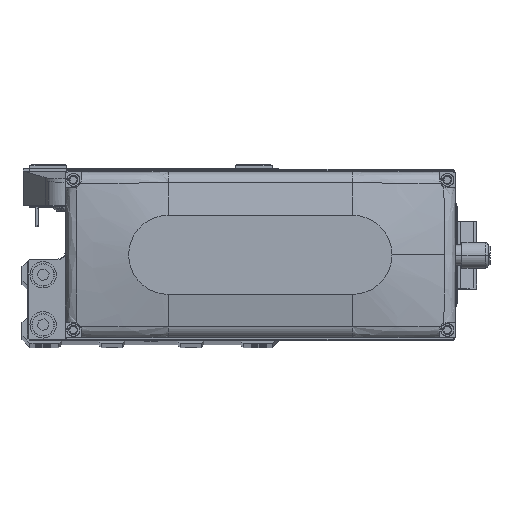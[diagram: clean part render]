
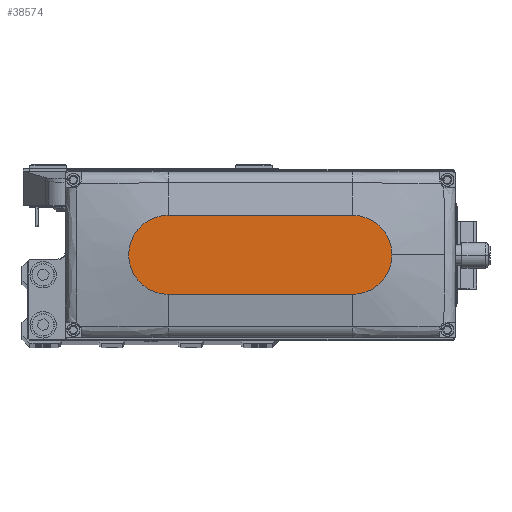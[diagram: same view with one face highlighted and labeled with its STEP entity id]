
A CAD part, top view. The second image highlights one B-rep face of the part: STEP entity #38574.
In plain terms, the highlighted planar face has unit normal (0, 0, 1).
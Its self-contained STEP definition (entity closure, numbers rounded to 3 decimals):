
#233 = FACE_OUTER_BOUND ( 'NONE', #39681, .T. ) ;
#1301 = ORIENTED_EDGE ( 'NONE', *, *, #24929, .T. ) ;
#1341 = DIRECTION ( 'NONE',  ( 1., 0., 0. ) ) ;
#4037 = AXIS2_PLACEMENT_3D ( 'NONE', #19592, #34253, #1341 ) ;
#4078 = AXIS2_PLACEMENT_3D ( 'NONE', #8944, #23604, #38247 ) ;
#4507 = EDGE_CURVE ( 'NONE', #17451, #28764, #46160, .T. ) ;
#4957 = EDGE_CURVE ( 'NONE', #28764, #22420, #40227, .T. ) ;
#7313 = CARTESIAN_POINT ( 'NONE',  ( -35., 15., 35. ) ) ;
#7830 = DIRECTION ( 'NONE',  ( 0., 0., 1. ) ) ;
#7891 = ORIENTED_EDGE ( 'NONE', *, *, #4507, .T. ) ;
#8944 = CARTESIAN_POINT ( 'NONE',  ( -35., 0., 35. ) ) ;
#9510 = ORIENTED_EDGE ( 'NONE', *, *, #42236, .T. ) ;
#10385 = CARTESIAN_POINT ( 'NONE',  ( 35., -15., 35. ) ) ;
#11015 = VERTEX_POINT ( 'NONE', #10385 ) ;
#11132 = VECTOR ( 'NONE', #27524, 1000. ) ;
#11289 = DIRECTION ( 'NONE',  ( 1., 0., 0. ) ) ;
#12079 = AXIS2_PLACEMENT_3D ( 'NONE', #29562, #44206, #11289 ) ;
#12798 = CARTESIAN_POINT ( 'NONE',  ( 35., 15., 35. ) ) ;
#12866 = CARTESIAN_POINT ( 'NONE',  ( -35., -15., 35. ) ) ;
#14907 = PLANE ( 'NONE',  #12079 ) ;
#15532 = VECTOR ( 'NONE', #21971, 1000. ) ;
#16940 = CARTESIAN_POINT ( 'NONE',  ( 50., 0., 35. ) ) ;
#17451 = VERTEX_POINT ( 'NONE', #16940 ) ;
#19592 = CARTESIAN_POINT ( 'NONE',  ( 35., 0., 35. ) ) ;
#20035 = ORIENTED_EDGE ( 'NONE', *, *, #41809, .T. ) ;
#21971 = DIRECTION ( 'NONE',  ( -1., 0., 0. ) ) ;
#22420 = VERTEX_POINT ( 'NONE', #39485 ) ;
#22492 = DIRECTION ( 'NONE',  ( 1., 0., 0. ) ) ;
#23604 = DIRECTION ( 'NONE',  ( 0., 0., 1. ) ) ;
#24766 = CIRCLE ( 'NONE', #4037, 15. ) ;
#24795 = CIRCLE ( 'NONE', #4078, 15. ) ;
#24929 = EDGE_CURVE ( 'NONE', #36319, #11015, #45780, .T. ) ;
#25465 = AXIS2_PLACEMENT_3D ( 'NONE', #40733, #7830, #22492 ) ;
#27524 = DIRECTION ( 'NONE',  ( 1., 0., 0. ) ) ;
#28764 = VERTEX_POINT ( 'NONE', #12798 ) ;
#29562 = CARTESIAN_POINT ( 'NONE',  ( 0., 0., 35. ) ) ;
#34253 = DIRECTION ( 'NONE',  ( 0., 0., 1. ) ) ;
#35837 = ORIENTED_EDGE ( 'NONE', *, *, #4957, .T. ) ;
#36319 = VERTEX_POINT ( 'NONE', #41945 ) ;
#38247 = DIRECTION ( 'NONE',  ( 1., 0., 0. ) ) ;
#38574 = ADVANCED_FACE ( 'NONE', ( #233 ), #14907, .T. ) ;
#39485 = CARTESIAN_POINT ( 'NONE',  ( -35., 15., 35. ) ) ;
#39681 = EDGE_LOOP ( 'NONE', ( #35837, #9510, #1301, #20035, #7891 ) ) ;
#40227 = LINE ( 'NONE', #7313, #15532 ) ;
#40733 = CARTESIAN_POINT ( 'NONE',  ( 35., 0., 35. ) ) ;
#41809 = EDGE_CURVE ( 'NONE', #11015, #17451, #24766, .T. ) ;
#41945 = CARTESIAN_POINT ( 'NONE',  ( -35., -15., 35. ) ) ;
#42236 = EDGE_CURVE ( 'NONE', #22420, #36319, #24795, .T. ) ;
#44206 = DIRECTION ( 'NONE',  ( 0., 0., 1. ) ) ;
#45780 = LINE ( 'NONE', #12866, #11132 ) ;
#46160 = CIRCLE ( 'NONE', #25465, 15. ) ;
